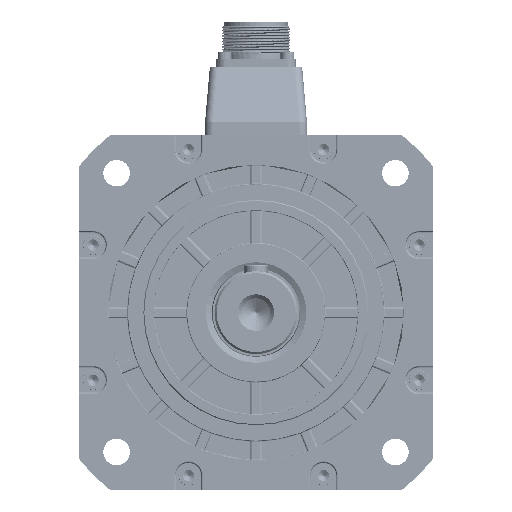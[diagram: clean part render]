
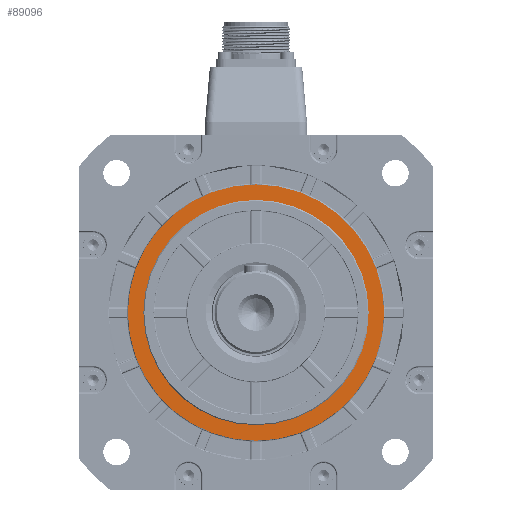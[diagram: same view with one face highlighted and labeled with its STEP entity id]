
A CAD part, left-side view. The second image highlights one B-rep face of the part: STEP entity #89096.
In plain terms, the highlighted planar face has unit normal (-1, 0, 0).
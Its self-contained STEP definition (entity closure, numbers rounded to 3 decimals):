
#69036=CARTESIAN_POINT('',(3.2,0.,0.));
#69037=DIRECTION('',(-1.,0.,0.));
#69038=DIRECTION('',(0.,1.,0.));
#69039=AXIS2_PLACEMENT_3D('',#69036,#69037,#69038);
#69041=CARTESIAN_POINT('',(3.2,0.,0.));
#69042=DIRECTION('',(1.,0.,0.));
#69043=DIRECTION('',(0.,1.,0.));
#69044=AXIS2_PLACEMENT_3D('',#69041,#69042,#69043);
#69086=CARTESIAN_POINT('',(3.2,0.,0.));
#69087=DIRECTION('',(-1.,0.,0.));
#69088=DIRECTION('',(0.,0.,-1.));
#69089=AXIS2_PLACEMENT_3D('',#69086,#69087,#69088);
#69091=CARTESIAN_POINT('',(3.2,0.,0.));
#69092=DIRECTION('',(-1.,0.,0.));
#69093=DIRECTION('',(0.,0.,1.));
#69094=AXIS2_PLACEMENT_3D('',#69091,#69092,#69093);
#77718=CARTESIAN_POINT('',(3.2,57.15,0.));
#77719=CARTESIAN_POINT('',(3.2,-57.15,0.));
#77720=VERTEX_POINT('',#77718);
#77721=VERTEX_POINT('',#77719);
#77938=CARTESIAN_POINT('',(3.2,0.,-65.));
#77939=CARTESIAN_POINT('',(3.2,0.,65.));
#77940=VERTEX_POINT('',#77938);
#77941=VERTEX_POINT('',#77939);
#89079=CARTESIAN_POINT('',(3.2,0.,0.));
#89080=DIRECTION('',(1.,0.,0.));
#89081=DIRECTION('',(0.,-1.,0.));
#89082=AXIS2_PLACEMENT_3D('',#89079,#89080,#89081);
#89083=PLANE('',#89082);
#89085=ORIENTED_EDGE('',*,*,#89084,.F.);
#89087=ORIENTED_EDGE('',*,*,#89086,.F.);
#89088=EDGE_LOOP('',(#89085,#89087));
#89089=FACE_OUTER_BOUND('',#89088,.F.);
#89091=ORIENTED_EDGE('',*,*,#89090,.T.);
#89093=ORIENTED_EDGE('',*,*,#89092,.F.);
#89094=EDGE_LOOP('',(#89091,#89093));
#89095=FACE_BOUND('',#89094,.F.);
#89096=ADVANCED_FACE('',(#89089,#89095),#89083,.F.);
#69040=CIRCLE('',#69039,57.15);
#69045=CIRCLE('',#69044,57.15);
#69090=CIRCLE('',#69089,65.);
#69095=CIRCLE('',#69094,65.);
#89084=EDGE_CURVE('',#77940,#77941,#69090,.T.);
#89086=EDGE_CURVE('',#77941,#77940,#69095,.T.);
#89090=EDGE_CURVE('',#77720,#77721,#69040,.T.);
#89092=EDGE_CURVE('',#77720,#77721,#69045,.T.);
